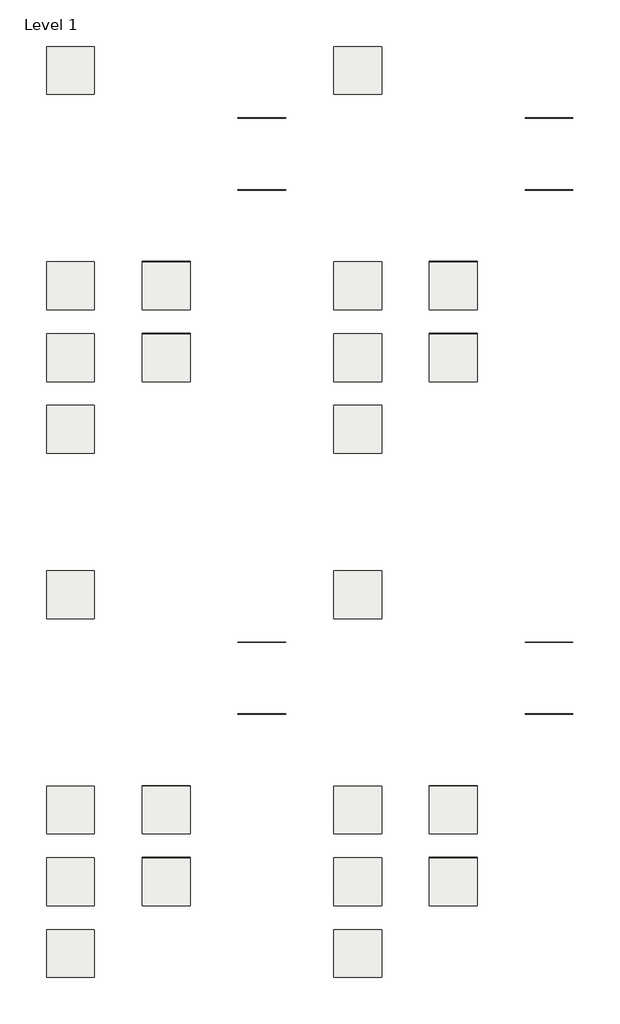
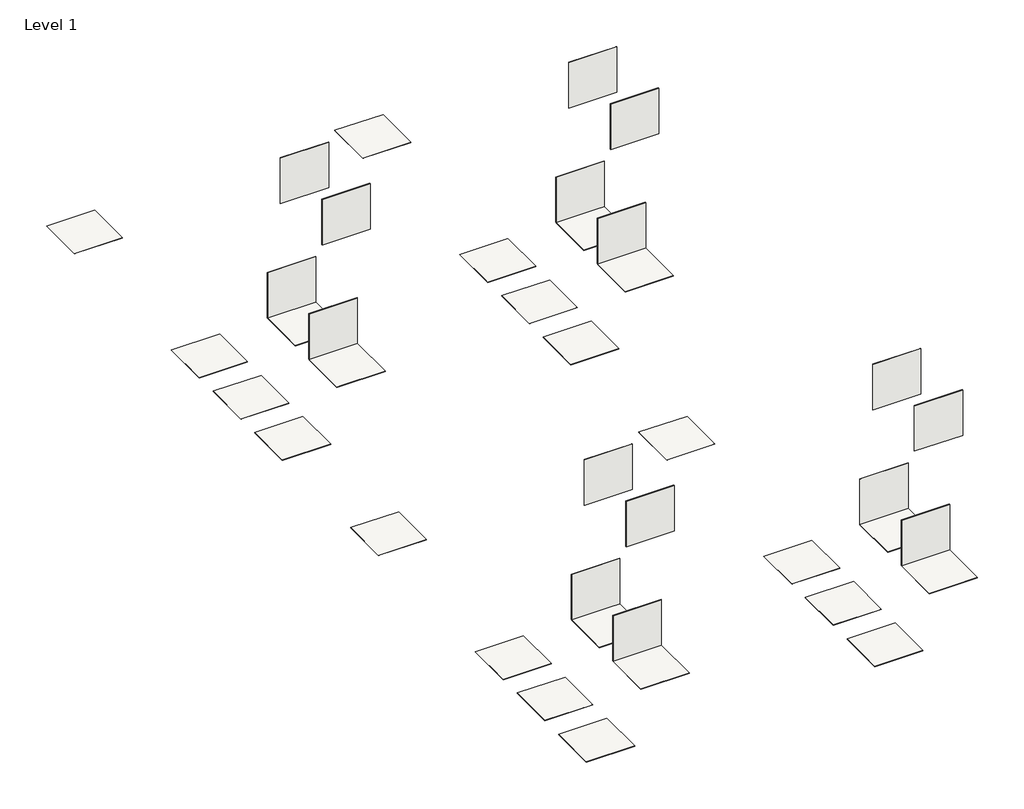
# One storey: 40 coverings.
"""IFC4 building model written with IfcOpenShell, lengths in millimetres."""

from ifc_helpers import new_model, si_unit, frame, origin, origin_with_axes, place, context, project, spatial, polyline, outline, extrude, element, save

model = new_model("IFC4")

# Units and contexts
model_context = context("Model", 3, world=origin())
ifc_project = project(units=[si_unit("LENGTHUNIT", "METRE", prefix="MILLI")], contexts=[model_context])

# Site, building, storey
site = spatial("IfcSite", under=ifc_project)
building = spatial("IfcBuilding", under=site)
storey = spatial("IfcBuildingStorey", under=building, Name="Level 1", Elevation=0.0)

# Coverings
placement = place(None, origin())
element("IfcCovering", 1, ObjectType="LOVE TILES-SENSE-BASE-80x80-TOUCH RECTIFIED-BEIGE", at=placement, inside=storey, context=model_context, shape_type="SweptSolid", body=[
    extrude(outline(polyline([(26997.0720096, -29212.0513387), (25997.0720096, -29212.0513387), (25997.0720096, -29203.0513387), (26997.0720096, -29203.0513387), (26997.0720096, -29212.0513387)])), origin_with_axes(), (0.0, 0.0, 1.0), 1000.0),
])
element("IfcCovering", 2, ObjectType="LOVE TILES-SENSE-BASE-80x80-TOUCH RECTIFIED-BEIGE", at=placement, inside=storey, context=model_context, shape_type="SweptSolid", body=[
    extrude(outline(polyline([(26997.0720096, -29212.0513387), (26997.0720096, -30212.0513387), (25997.0720096, -30212.0513387), (25997.0720096, -29212.0513387), (26997.0720096, -29212.0513387)])), frame((0.0, 0.0, -9.0), z_axis=(0.0, 0.0, 1.0), x_axis=(1.0, 0.0, 0.0)), (0.0, 0.0, 1.0), 9.0),
])
element("IfcCovering", 3, ObjectType="LOVE TILES-SENSE-BASE-60x60-TOUCH RECTIFIED-BEIGE", at=placement, inside=storey, context=model_context, shape_type="SweptSolid", body=[
    extrude(outline(polyline([(26997.0720096, -27711.5513387), (25997.0720096, -27711.5513387), (25997.0720096, -27703.5513387), (26997.0720096, -27703.5513387), (26997.0720096, -27711.5513387)])), origin_with_axes(), (0.0, 0.0, 1.0), 1000.0),
])
element("IfcCovering", 4, ObjectType="LOVE TILES-SENSE-BASE-100x100-IN&OUT RECTIFIED-BEIGE", at=placement, inside=storey, context=model_context, shape_type="SweptSolid", body=[
    extrude(outline(polyline([(24997.0720096, -30712.0513387), (24997.0720096, -31712.0513387), (23997.0720096, -31712.0513387), (23997.0720096, -30712.0513387), (24997.0720096, -30712.0513387)])), frame((0.0, 0.0, -9.0), z_axis=(0.0, 0.0, 1.0), x_axis=(1.0, 0.0, 0.0)), (0.0, 0.0, 1.0), 9.0),
])
element("IfcCovering", 5, ObjectType="LOVE TILES-SENSE-BASE-80x80-IN&OUT RECTIFIED-BEIGE", at=placement, inside=storey, context=model_context, shape_type="SweptSolid", body=[
    extrude(outline(polyline([(24997.0720096, -29212.0513387), (24997.0720096, -30212.0513387), (23997.0720096, -30212.0513387), (23997.0720096, -29212.0513387), (24997.0720096, -29212.0513387)])), frame((0.0, 0.0, -9.0), z_axis=(0.0, 0.0, 1.0), x_axis=(1.0, 0.0, 0.0)), (0.0, 0.0, 1.0), 9.0),
])
element("IfcCovering", 6, ObjectType="LOVE TILES-SENSE-BASE-60x60-IN&OUT RECTIFIED-BEIGE", at=placement, inside=storey, context=model_context, shape_type="SweptSolid", body=[
    extrude(outline(polyline([(24997.0720096, -27712.0513387), (24997.0720096, -28712.0513387), (23997.0720096, -28712.0513387), (23997.0720096, -27712.0513387), (24997.0720096, -27712.0513387)])), frame((0.0, 0.0, -8.0), z_axis=(0.0, 0.0, 1.0), x_axis=(1.0, 0.0, 0.0)), (0.0, 0.0, 1.0), 8.0),
])
element("IfcCovering", 7, ObjectType="LOVE TILES-SENSE-BASE-30x60-IN&OUT RECTIFIED-BEIGE", at=placement, inside=storey, context=model_context, shape_type="SweptSolid", body=[
    extrude(outline(polyline([(24997.0720096, -23212.0513387), (24997.0720096, -24212.0513387), (23997.0720096, -24212.0513387), (23997.0720096, -23212.0513387), (24997.0720096, -23212.0513387)])), frame((0.0, 0.0, -8.0), z_axis=(0.0, 0.0, 1.0), x_axis=(1.0, 0.0, 0.0)), (0.0, 0.0, 1.0), 8.0),
])
element("IfcCovering", 8, ObjectType="LOVE TILES-SENSE-BASE-60x60-TOUCH RECTIFIED-BEIGE", at=placement, inside=storey, context=model_context, shape_type="SweptSolid", body=[
    extrude(outline(polyline([(26997.0720096, -27711.5513387), (26997.0720096, -28712.0513387), (25997.0720096, -28712.0513387), (25997.0720096, -27711.5513387), (26997.0720096, -27711.5513387)])), frame((0.0, 0.0, -8.0), z_axis=(0.0, 0.0, 1.0), x_axis=(1.0, 0.0, 0.0)), (0.0, 0.0, 1.0), 8.0),
])
element("IfcCovering", 9, ObjectType="LOVE TILES-SENSE-BASE-35x100-MATT RECTIFIED-BEIGE", at=placement, inside=storey, context=model_context, shape_type="SweptSolid", body=[
    extrude(outline(polyline([(28997.0720096, -26211.5513387), (27997.0720096, -26211.5513387), (27997.0720096, -26203.5513387), (28997.0720096, -26203.5513387), (28997.0720096, -26211.5513387)])), origin_with_axes(), (0.0, 0.0, 1.0), 1000.0),
])
element("IfcCovering", 10, ObjectType="LOVE TILES-SENSE-BASE-35x70-MATT RECTIFIED-BEIGE", at=placement, inside=storey, context=model_context, shape_type="SweptSolid", body=[
    extrude(outline(polyline([(28997.0720096, -24711.5513387), (27997.0720096, -24711.5513387), (27997.0720096, -24703.5513387), (28997.0720096, -24703.5513387), (28997.0720096, -24711.5513387)])), origin_with_axes(), (0.0, 0.0, 1.0), 1000.0),
])
element("IfcCovering", 11, ObjectType="LOVE TILES-SENSE-BASE-35x100-MATT RECTIFIED-GREY", at=placement, inside=storey, context=model_context, shape_type="SweptSolid", body=[
    extrude(outline(polyline([(34997.0720096, -26211.5513387), (33997.0720096, -26211.5513387), (33997.0720096, -26203.5513387), (34997.0720096, -26203.5513387), (34997.0720096, -26211.5513387)])), origin_with_axes(), (0.0, 0.0, 1.0), 1000.0),
])
element("IfcCovering", 12, ObjectType="LOVE TILES-SENSE-BASE-35x70-MATT RECTIFIED-GREY", at=placement, inside=storey, context=model_context, shape_type="SweptSolid", body=[
    extrude(outline(polyline([(34997.0720096, -24711.5513387), (33997.0720096, -24711.5513387), (33997.0720096, -24703.5513387), (34997.0720096, -24703.5513387), (34997.0720096, -24711.5513387)])), origin_with_axes(), (0.0, 0.0, 1.0), 1000.0),
])
element("IfcCovering", 13, ObjectType="LOVE TILES-SENSE-BASE-80x80-TOUCH RECTIFIED-GREY", at=placement, inside=storey, context=model_context, shape_type="SweptSolid", body=[
    extrude(outline(polyline([(32997.0720096, -29212.0513387), (31997.0720096, -29212.0513387), (31997.0720096, -29203.0513387), (32997.0720096, -29203.0513387), (32997.0720096, -29212.0513387)])), origin_with_axes(), (0.0, 0.0, 1.0), 1000.0),
])
element("IfcCovering", 14, ObjectType="LOVE TILES-SENSE-BASE-80x80-TOUCH RECTIFIED-GREY", at=placement, inside=storey, context=model_context, shape_type="SweptSolid", body=[
    extrude(outline(polyline([(32997.0720096, -29212.0513387), (32997.0720096, -30212.0513387), (31997.0720096, -30212.0513387), (31997.0720096, -29212.0513387), (32997.0720096, -29212.0513387)])), frame((0.0, 0.0, -9.0), z_axis=(0.0, 0.0, 1.0), x_axis=(1.0, 0.0, 0.0)), (0.0, 0.0, 1.0), 9.0),
])
element("IfcCovering", 15, ObjectType="LOVE TILES-SENSE-BASE-60x60-TOUCH RECTIFIED-GREY", at=placement, inside=storey, context=model_context, shape_type="SweptSolid", body=[
    extrude(outline(polyline([(32997.0720096, -27711.5513387), (31997.0720096, -27711.5513387), (31997.0720096, -27703.5513387), (32997.0720096, -27703.5513387), (32997.0720096, -27711.5513387)])), origin_with_axes(), (0.0, 0.0, 1.0), 1000.0),
])
element("IfcCovering", 16, ObjectType="LOVE TILES-SENSE-BASE-100x100-IN&OUT RECTIFIED-GREY", at=placement, inside=storey, context=model_context, shape_type="SweptSolid", body=[
    extrude(outline(polyline([(30997.0720096, -30712.0513387), (30997.0720096, -31712.0513387), (29997.0720096, -31712.0513387), (29997.0720096, -30712.0513387), (30997.0720096, -30712.0513387)])), frame((0.0, 0.0, -9.0), z_axis=(0.0, 0.0, 1.0), x_axis=(1.0, 0.0, 0.0)), (0.0, 0.0, 1.0), 9.0),
])
element("IfcCovering", 17, ObjectType="LOVE TILES-SENSE-BASE-80x80-IN&OUT RECTIFIED-GREY", at=placement, inside=storey, context=model_context, shape_type="SweptSolid", body=[
    extrude(outline(polyline([(30997.0720096, -29212.0513387), (30997.0720096, -30212.0513387), (29997.0720096, -30212.0513387), (29997.0720096, -29212.0513387), (30997.0720096, -29212.0513387)])), frame((0.0, 0.0, -9.0), z_axis=(0.0, 0.0, 1.0), x_axis=(1.0, 0.0, 0.0)), (0.0, 0.0, 1.0), 9.0),
])
element("IfcCovering", 18, ObjectType="LOVE TILES-SENSE-BASE-60x60-IN&OUT RECTIFIED-GREY", at=placement, inside=storey, context=model_context, shape_type="SweptSolid", body=[
    extrude(outline(polyline([(30997.0720096, -27712.0513387), (30997.0720096, -28712.0513387), (29997.0720096, -28712.0513387), (29997.0720096, -27712.0513387), (30997.0720096, -27712.0513387)])), frame((0.0, 0.0, -8.0), z_axis=(0.0, 0.0, 1.0), x_axis=(1.0, 0.0, 0.0)), (0.0, 0.0, 1.0), 8.0),
])
element("IfcCovering", 19, ObjectType="LOVE TILES-SENSE-BASE-30x60-IN&OUT RECTIFIED-GREY", at=placement, inside=storey, context=model_context, shape_type="SweptSolid", body=[
    extrude(outline(polyline([(30997.0720096, -23212.0513387), (30997.0720096, -24212.0513387), (29997.0720096, -24212.0513387), (29997.0720096, -23212.0513387), (30997.0720096, -23212.0513387)])), frame((0.0, 0.0, -8.0), z_axis=(0.0, 0.0, 1.0), x_axis=(1.0, 0.0, 0.0)), (0.0, 0.0, 1.0), 8.0),
])
element("IfcCovering", 20, ObjectType="LOVE TILES-SENSE-BASE-60x60-TOUCH RECTIFIED-GREY", at=placement, inside=storey, context=model_context, shape_type="SweptSolid", body=[
    extrude(outline(polyline([(32997.0720096, -27711.5513387), (32997.0720096, -28712.0513387), (31997.0720096, -28712.0513387), (31997.0720096, -27711.5513387), (32997.0720096, -27711.5513387)])), frame((0.0, 0.0, -8.0), z_axis=(0.0, 0.0, 1.0), x_axis=(1.0, 0.0, 0.0)), (0.0, 0.0, 1.0), 8.0),
])
element("IfcCovering", 21, ObjectType="LOVE TILES-SENSE-BASE-80x80-TOUCH RECTIFIED-LIGHT GREY", at=placement, inside=storey, context=model_context, shape_type="SweptSolid", body=[
    extrude(outline(polyline([(26997.0720096, -40163.6437558), (25997.0720096, -40163.6437558), (25997.0720096, -40154.6437558), (26997.0720096, -40154.6437558), (26997.0720096, -40163.6437558)])), origin_with_axes(), (0.0, 0.0, 1.0), 1000.0),
])
element("IfcCovering", 22, ObjectType="LOVE TILES-SENSE-BASE-80x80-TOUCH RECTIFIED-LIGHT GREY", at=placement, inside=storey, context=model_context, shape_type="SweptSolid", body=[
    extrude(outline(polyline([(26997.0720096, -40163.6437558), (26997.0720096, -41163.6437558), (25997.0720096, -41163.6437558), (25997.0720096, -40163.6437558), (26997.0720096, -40163.6437558)])), frame((0.0, 0.0, -9.0), z_axis=(0.0, 0.0, 1.0), x_axis=(1.0, 0.0, 0.0)), (0.0, 0.0, 1.0), 9.0),
])
element("IfcCovering", 23, ObjectType="LOVE TILES-SENSE-BASE-60x60-TOUCH RECTIFIED-LIGHT GREY", at=placement, inside=storey, context=model_context, shape_type="SweptSolid", body=[
    extrude(outline(polyline([(26997.0720096, -38663.1437558), (25997.0720096, -38663.1437558), (25997.0720096, -38655.1437558), (26997.0720096, -38655.1437558), (26997.0720096, -38663.1437558)])), origin_with_axes(), (0.0, 0.0, 1.0), 1000.0),
])
element("IfcCovering", 24, ObjectType="LOVE TILES-SENSE-BASE-100x100-IN&OUT RECTIFIED-LIGHT GREY", at=placement, inside=storey, context=model_context, shape_type="SweptSolid", body=[
    extrude(outline(polyline([(24997.0720096, -41663.6437558), (24997.0720096, -42663.6437558), (23997.0720096, -42663.6437558), (23997.0720096, -41663.6437558), (24997.0720096, -41663.6437558)])), frame((0.0, 0.0, -9.0), z_axis=(0.0, 0.0, 1.0), x_axis=(1.0, 0.0, 0.0)), (0.0, 0.0, 1.0), 9.0),
])
element("IfcCovering", 25, ObjectType="LOVE TILES-SENSE-BASE-80x80-IN&OUT RECTIFIED-LIGHT GREY", at=placement, inside=storey, context=model_context, shape_type="SweptSolid", body=[
    extrude(outline(polyline([(24997.0720096, -40163.6437558), (24997.0720096, -41163.6437558), (23997.0720096, -41163.6437558), (23997.0720096, -40163.6437558), (24997.0720096, -40163.6437558)])), frame((0.0, 0.0, -9.0), z_axis=(0.0, 0.0, 1.0), x_axis=(1.0, 0.0, 0.0)), (0.0, 0.0, 1.0), 9.0),
])
element("IfcCovering", 26, ObjectType="LOVE TILES-SENSE-BASE-60x60-IN&OUT RECTIFIED-LIGHT GREY", at=placement, inside=storey, context=model_context, shape_type="SweptSolid", body=[
    extrude(outline(polyline([(24997.0720096, -38663.6437558), (24997.0720096, -39663.6437558), (23997.0720096, -39663.6437558), (23997.0720096, -38663.6437558), (24997.0720096, -38663.6437558)])), frame((0.0, 0.0, -8.0), z_axis=(0.0, 0.0, 1.0), x_axis=(1.0, 0.0, 0.0)), (0.0, 0.0, 1.0), 8.0),
])
element("IfcCovering", 27, ObjectType="LOVE TILES-SENSE-BASE-30x60-IN&OUT RECTIFIED-LIGHT GREY", at=placement, inside=storey, context=model_context, shape_type="SweptSolid", body=[
    extrude(outline(polyline([(24997.0720096, -34163.6437558), (24997.0720096, -35163.6437558), (23997.0720096, -35163.6437558), (23997.0720096, -34163.6437558), (24997.0720096, -34163.6437558)])), frame((0.0, 0.0, -8.0), z_axis=(0.0, 0.0, 1.0), x_axis=(1.0, 0.0, 0.0)), (0.0, 0.0, 1.0), 8.0),
])
element("IfcCovering", 28, ObjectType="LOVE TILES-SENSE-BASE-60x60-TOUCH RECTIFIED-LIGHT GREY", at=placement, inside=storey, context=model_context, shape_type="SweptSolid", body=[
    extrude(outline(polyline([(26997.0720096, -38663.1437558), (26997.0720096, -39663.6437558), (25997.0720096, -39663.6437558), (25997.0720096, -38663.1437558), (26997.0720096, -38663.1437558)])), frame((0.0, 0.0, -8.0), z_axis=(0.0, 0.0, 1.0), x_axis=(1.0, 0.0, 0.0)), (0.0, 0.0, 1.0), 8.0),
])
element("IfcCovering", 29, ObjectType="LOVE TILES-SENSE-BASE-35x100-MATT RECTIFIED-LIGHT GREY", at=placement, inside=storey, context=model_context, shape_type="SweptSolid", body=[
    extrude(outline(polyline([(28997.0720096, -37163.1437558), (27997.0720096, -37163.1437558), (27997.0720096, -37155.1437558), (28997.0720096, -37155.1437558), (28997.0720096, -37163.1437558)])), origin_with_axes(), (0.0, 0.0, 1.0), 1000.0),
])
element("IfcCovering", 30, ObjectType="LOVE TILES-SENSE-BASE-35x70-MATT RECTIFIED-LIGHT GREY", at=placement, inside=storey, context=model_context, shape_type="SweptSolid", body=[
    extrude(outline(polyline([(28997.0720096, -35663.1437558), (27997.0720096, -35663.1437558), (27997.0720096, -35655.1437558), (28997.0720096, -35655.1437558), (28997.0720096, -35663.1437558)])), origin_with_axes(), (0.0, 0.0, 1.0), 1000.0),
])
element("IfcCovering", 31, ObjectType="LOVE TILES-SENSE-BASE-35x100-MATT RECTIFIED-WHITE", at=placement, inside=storey, context=model_context, shape_type="SweptSolid", body=[
    extrude(outline(polyline([(34997.0720096, -37163.1437558), (33997.0720096, -37163.1437558), (33997.0720096, -37155.1437558), (34997.0720096, -37155.1437558), (34997.0720096, -37163.1437558)])), origin_with_axes(), (0.0, 0.0, 1.0), 1000.0),
])
element("IfcCovering", 32, ObjectType="LOVE TILES-SENSE-BASE-35x70-MATT RECTIFIED-WHITE", at=placement, inside=storey, context=model_context, shape_type="SweptSolid", body=[
    extrude(outline(polyline([(34997.0720096, -35663.1437558), (33997.0720096, -35663.1437558), (33997.0720096, -35655.1437558), (34997.0720096, -35655.1437558), (34997.0720096, -35663.1437558)])), origin_with_axes(), (0.0, 0.0, 1.0), 1000.0),
])
element("IfcCovering", 33, ObjectType="LOVE TILES-SENSE-BASE-80x80-TOUCH RECTIFIED-WHITE", at=placement, inside=storey, context=model_context, shape_type="SweptSolid", body=[
    extrude(outline(polyline([(32997.0720096, -40163.6437558), (31997.0720096, -40163.6437558), (31997.0720096, -40154.6437558), (32997.0720096, -40154.6437558), (32997.0720096, -40163.6437558)])), origin_with_axes(), (0.0, 0.0, 1.0), 1000.0),
])
element("IfcCovering", 34, ObjectType="LOVE TILES-SENSE-BASE-80x80-TOUCH RECTIFIED-WHITE", at=placement, inside=storey, context=model_context, shape_type="SweptSolid", body=[
    extrude(outline(polyline([(32997.0720096, -40163.6437558), (32997.0720096, -41163.6437558), (31997.0720096, -41163.6437558), (31997.0720096, -40163.6437558), (32997.0720096, -40163.6437558)])), frame((0.0, 0.0, -9.0), z_axis=(0.0, 0.0, 1.0), x_axis=(1.0, 0.0, 0.0)), (0.0, 0.0, 1.0), 9.0),
])
element("IfcCovering", 35, ObjectType="LOVE TILES-SENSE-BASE-60x60-TOUCH RECTIFIED-WHITE", at=placement, inside=storey, context=model_context, shape_type="SweptSolid", body=[
    extrude(outline(polyline([(32997.0720096, -38663.1437558), (31997.0720096, -38663.1437558), (31997.0720096, -38655.1437558), (32997.0720096, -38655.1437558), (32997.0720096, -38663.1437558)])), origin_with_axes(), (0.0, 0.0, 1.0), 1000.0),
])
element("IfcCovering", 36, ObjectType="LOVE TILES-SENSE-BASE-100x100-IN&OUT RECTIFIED-WHITE", at=placement, inside=storey, context=model_context, shape_type="SweptSolid", body=[
    extrude(outline(polyline([(30997.0720096, -41663.6437558), (30997.0720096, -42663.6437558), (29997.0720096, -42663.6437558), (29997.0720096, -41663.6437558), (30997.0720096, -41663.6437558)])), frame((0.0, 0.0, -9.0), z_axis=(0.0, 0.0, 1.0), x_axis=(1.0, 0.0, 0.0)), (0.0, 0.0, 1.0), 9.0),
])
element("IfcCovering", 37, ObjectType="LOVE TILES-SENSE-BASE-80x80-IN&OUT RECTIFIED-WHITE", at=placement, inside=storey, context=model_context, shape_type="SweptSolid", body=[
    extrude(outline(polyline([(30997.0720096, -40163.6437558), (30997.0720096, -41163.6437558), (29997.0720096, -41163.6437558), (29997.0720096, -40163.6437558), (30997.0720096, -40163.6437558)])), frame((0.0, 0.0, -9.0), z_axis=(0.0, 0.0, 1.0), x_axis=(1.0, 0.0, 0.0)), (0.0, 0.0, 1.0), 9.0),
])
element("IfcCovering", 38, ObjectType="LOVE TILES-SENSE-BASE-60x60-IN&OUT RECTIFIED-WHITE", at=placement, inside=storey, context=model_context, shape_type="SweptSolid", body=[
    extrude(outline(polyline([(30997.0720096, -38663.6437558), (30997.0720096, -39663.6437558), (29997.0720096, -39663.6437558), (29997.0720096, -38663.6437558), (30997.0720096, -38663.6437558)])), frame((0.0, 0.0, -8.0), z_axis=(0.0, 0.0, 1.0), x_axis=(1.0, 0.0, 0.0)), (0.0, 0.0, 1.0), 8.0),
])
element("IfcCovering", 39, ObjectType="LOVE TILES-SENSE-BASE-30x60-IN&OUT RECTIFIED-WHITE", at=placement, inside=storey, context=model_context, shape_type="SweptSolid", body=[
    extrude(outline(polyline([(30997.0720096, -34163.6437558), (30997.0720096, -35163.6437558), (29997.0720096, -35163.6437558), (29997.0720096, -34163.6437558), (30997.0720096, -34163.6437558)])), frame((0.0, 0.0, -8.0), z_axis=(0.0, 0.0, 1.0), x_axis=(1.0, 0.0, 0.0)), (0.0, 0.0, 1.0), 8.0),
])
element("IfcCovering", 40, ObjectType="LOVE TILES-SENSE-BASE-60x60-TOUCH RECTIFIED-WHITE", at=placement, inside=storey, context=model_context, shape_type="SweptSolid", body=[
    extrude(outline(polyline([(32997.0720096, -38663.1437558), (32997.0720096, -39663.6437558), (31997.0720096, -39663.6437558), (31997.0720096, -38663.1437558), (32997.0720096, -38663.1437558)])), frame((0.0, 0.0, -8.0), z_axis=(0.0, 0.0, 1.0), x_axis=(1.0, 0.0, 0.0)), (0.0, 0.0, 1.0), 8.0),
])

save(model, "model.ifc")
